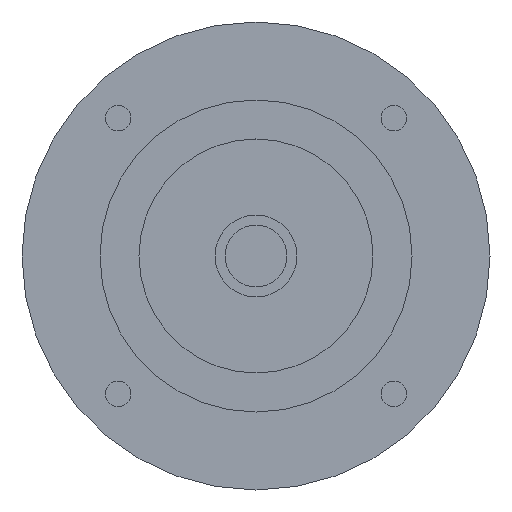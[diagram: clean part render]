
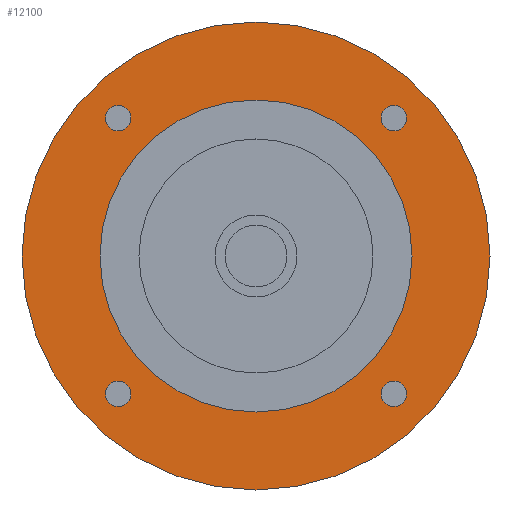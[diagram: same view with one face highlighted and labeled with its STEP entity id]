
A CAD part, left-side view. The second image highlights one B-rep face of the part: STEP entity #12100.
In plain terms, the highlighted planar face has unit normal (-1, 0, 0) as drawn and (0, 0, -1) by its records, which use the part's own axes.
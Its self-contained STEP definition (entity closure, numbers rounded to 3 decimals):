
#9070=CARTESIAN_POINT('',(60.,0.,-47.401));
#9080=VERTEX_POINT('',#9070);
#9110=CARTESIAN_POINT('',(0.,0.,
-47.401));
#9120=DIRECTION('',(0.,0.,-1.));
#9130=DIRECTION('',(0.,-1.,0.));
#9140=AXIS2_PLACEMENT_3D('',#9110,#9120,#9130);
#9150=CIRCLE('',#9140,60.);
#9160=CARTESIAN_POINT('',(0.,-60.,-47.401));
#9170=VERTEX_POINT('',#9160);
#9180=EDGE_CURVE('',#9080,#9170,#9150,.T.);
#9200=CARTESIAN_POINT('',(-60.,0.,-47.401));
#9210=VERTEX_POINT('',#9200);
#9220=EDGE_CURVE('',#9170,#9210,#9150,.T.);
#11070=CARTESIAN_POINT('',(35.355,32.105,-47.401));
#11080=VERTEX_POINT('',#11070);
#11110=CARTESIAN_POINT('',(35.355,35.355,-47.401));
#11120=DIRECTION('',(0.,0.,-1.));
#11130=DIRECTION('',(0.,1.,0.));
#11140=AXIS2_PLACEMENT_3D('',#11110,#11120,#11130);
#11150=CIRCLE('',#11140,3.25);
#11160=CARTESIAN_POINT('',(35.355,38.605,-47.401));
#11170=VERTEX_POINT('',#11160);
#11180=EDGE_CURVE('',#11170,#11080,#11150,.T.);
#11300=CARTESIAN_POINT('',(0.,0.,
-47.401));
#11310=DIRECTION('',(0.,0.,-1.));
#11320=DIRECTION('',(1.,0.,0.));
#11330=AXIS2_PLACEMENT_3D('',#11300,#11310,#11320);
#11340=PLANE('',#11330);
#11350=ORIENTED_EDGE('',*,*,#11180,.F.);
#11360=EDGE_CURVE('',#11080,#11170,#11150,.T.);
#11370=ORIENTED_EDGE('',*,*,#11360,.F.);
#11380=EDGE_LOOP('',(#11370,#11350));
#11390=FACE_BOUND('',#11380,.T.);
#11400=CARTESIAN_POINT('',(-35.355,35.355,-47.401));
#11410=DIRECTION('',(0.,0.,-1.));
#11420=DIRECTION('',(-1.,0.,0.));
#11430=AXIS2_PLACEMENT_3D('',#11400,#11410,#11420);
#11440=CIRCLE('',#11430,3.25);
#11450=CARTESIAN_POINT('',(-38.605,35.355,-47.401));
#11460=VERTEX_POINT('',#11450);
#11470=CARTESIAN_POINT('',(-32.105,35.355,-47.401));
#11480=VERTEX_POINT('',#11470);
#11490=EDGE_CURVE('',#11460,#11480,#11440,.T.);
#11500=ORIENTED_EDGE('',*,*,#11490,.F.);
#11510=EDGE_CURVE('',#11480,#11460,#11440,.T.);
#11520=ORIENTED_EDGE('',*,*,#11510,.F.);
#11530=EDGE_LOOP('',(#11520,#11500));
#11540=FACE_BOUND('',#11530,.T.);
#11550=CARTESIAN_POINT('',(-35.355,-35.355,-47.401))
;
#11560=DIRECTION('',(0.,0.,-1.));
#11570=DIRECTION('',(0.,-1.,0.));
#11580=AXIS2_PLACEMENT_3D('',#11550,#11560,#11570);
#11590=CIRCLE('',#11580,3.25);
#11600=CARTESIAN_POINT('',(-35.355,-38.605,-47.401))
;
#11610=VERTEX_POINT('',#11600);
#11620=CARTESIAN_POINT('',(-35.355,-32.105,-47.401))
;
#11630=VERTEX_POINT('',#11620);
#11640=EDGE_CURVE('',#11610,#11630,#11590,.T.);
#11650=ORIENTED_EDGE('',*,*,#11640,.F.);
#11660=EDGE_CURVE('',#11630,#11610,#11590,.T.);
#11670=ORIENTED_EDGE('',*,*,#11660,.F.);
#11680=EDGE_LOOP('',(#11670,#11650));
#11690=FACE_BOUND('',#11680,.T.);
#11700=CARTESIAN_POINT('',(0.,0.,
-47.401));
#11710=DIRECTION('',(0.,0.,1.));
#11720=DIRECTION('',(0.,1.,0.));
#11730=AXIS2_PLACEMENT_3D('',#11700,#11710,#11720);
#11740=CIRCLE('',#11730,40.);
#11750=CARTESIAN_POINT('',(-40.,0.,-47.401));
#11760=VERTEX_POINT('',#11750);
#11770=CARTESIAN_POINT('',(40.,0.,-47.401));
#11780=VERTEX_POINT('',#11770);
#11790=EDGE_CURVE('',#11760,#11780,#11740,.T.);
#11800=ORIENTED_EDGE('',*,*,#11790,.T.);
#11810=CARTESIAN_POINT('',(0.,40.,-47.401));
#11820=VERTEX_POINT('',#11810);
#11830=EDGE_CURVE('',#11820,#11760,#11740,.T.);
#11840=ORIENTED_EDGE('',*,*,#11830,.T.);
#11850=EDGE_CURVE('',#11780,#11820,#11740,.T.);
#11860=ORIENTED_EDGE('',*,*,#11850,.T.);
#11870=EDGE_LOOP('',(#11860,#11840,#11800));
#11880=FACE_BOUND('',#11870,.T.);
#11890=CARTESIAN_POINT('',(35.355,-35.355,-47.401));
#11900=DIRECTION('',(0.,0.,-1.));
#11910=DIRECTION('',(1.,0.,0.));
#11920=AXIS2_PLACEMENT_3D('',#11890,#11900,#11910);
#11930=CIRCLE('',#11920,3.25);
#11940=CARTESIAN_POINT('',(38.605,-35.355,-47.401));
#11950=VERTEX_POINT('',#11940);
#11960=CARTESIAN_POINT('',(32.105,-35.355,-47.401));
#11970=VERTEX_POINT('',#11960);
#11980=EDGE_CURVE('',#11950,#11970,#11930,.T.);
#11990=ORIENTED_EDGE('',*,*,#11980,.F.);
#12000=EDGE_CURVE('',#11970,#11950,#11930,.T.);
#12010=ORIENTED_EDGE('',*,*,#12000,.F.);
#12020=EDGE_LOOP('',(#12010,#11990));
#12030=FACE_BOUND('',#12020,.T.);
#12040=EDGE_CURVE('',#9210,#9080,#9150,.T.);
#12050=ORIENTED_EDGE('',*,*,#12040,.T.);
#12060=ORIENTED_EDGE('',*,*,#9220,.T.);
#12070=ORIENTED_EDGE('',*,*,#9180,.T.);
#12080=EDGE_LOOP('',(#12070,#12060,#12050));
#12090=FACE_OUTER_BOUND('',#12080,.T.);
#12100=ADVANCED_FACE('',(#11390,#11540,#11690,#11880,#12030,#12090),
#11340,.T.);
